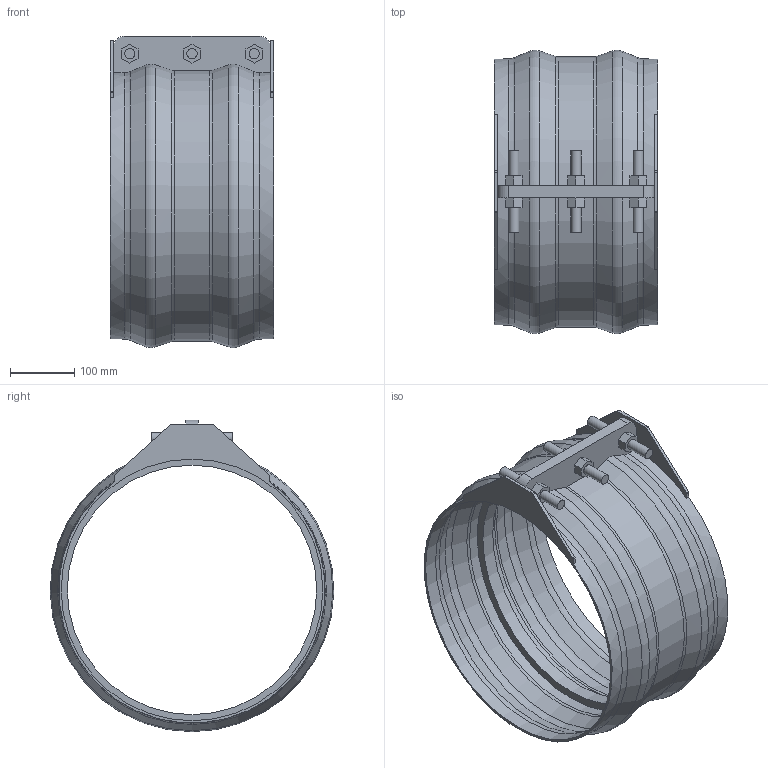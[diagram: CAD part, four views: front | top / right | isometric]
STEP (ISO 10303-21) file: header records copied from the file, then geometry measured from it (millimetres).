
FILE_DESCRIPTION(/* description */ ('VIC SS NON RESTRAINED COUPLING STYLE 229S (FLEX) (BEF)','CAx-IF Rec.Pracs.---Representation and Presentation of Product Manufacturing Information (PMI)---4.0---2014-10-13'),/* implementation_level */ '2;1');
FILE_NAME(/* name */ 'C:\Users\Vjadhav\Desktop\CAD for Inventor\1\229S\STEP\Victaulic_VBSP_Coupling Flexible Non-Restrained_Style 229S (BEF)\Victaulic_VBSP_Coupling Flexible Non-Restrained_Style 229S (BEF)_16 (400).stp',/* time_stamp */ '2021-08-26T18:17:04+06:00',/* author */ ('Vjadhav'),/* organization */ ('Victaulic'),/* preprocessor_version */ 'ST-DEVELOPER v17.2',/* originating_system */ 'Autodesk Inventor 2019',/* authorisation */ '');
FILE_SCHEMA (('AP242_MANAGED_MODEL_BASED_3D_ENGINEERING_MIM_LF { 1 0 10303 442 1 1 4 }'));
Length unit declared in the file: inch
Products named in the file (1): 229S-16.0
Bounding box: 254 x 440.13 x 483.4 mm (x, y, z)
Volume: 2002769.7 mm3; surface area: 807614.5 mm2
Topology: 1 solids, 1 shells, 111 faces, 301 edges, 206 vertices
Faces by surface type: plane 67, cylinder 24, torus 12, cone 8
Full cylindrical faces by diameter (mm): 15.875 x6, 387.35 x1, 406.4 x2, 412.75 x2
Entity records: 3874 total; most frequent: CARTESIAN_POINT 748, DIRECTION 633, ORIENTED_EDGE 602, EDGE_CURVE 301, AXIS2_PLACEMENT_3D 227, VERTEX_POINT 206, LINE 179, VECTOR 179
